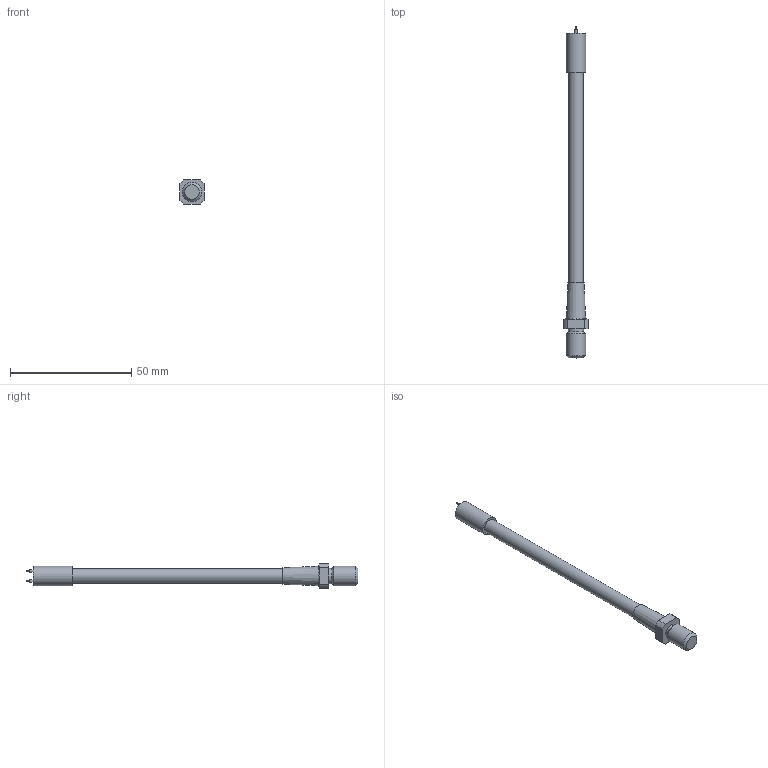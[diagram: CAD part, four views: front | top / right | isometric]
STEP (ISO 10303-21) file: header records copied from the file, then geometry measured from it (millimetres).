
FILE_DESCRIPTION(('STEP AP203'), '1');
FILE_NAME('ﾊﾌﾍﾒ.794191.002 ﾐﾐﾝﾑ-80-ﾐ4', '', ('UNSPECIFIED'), ('UNSPECIFIED'), 'C3D Converter', 'C3D Toolkit', '');
FILE_SCHEMA(('CONFIG_CONTROL_DESIGN'));
Length unit declared in the file: millimetre
Products named in the file (1): КМНТ.794191.002
Bounding box: 10 x 137 x 10 mm (x, y, z)
Volume: 4739.8 mm3; surface area: 3642.1 mm2
Topology: 447 solids, 447 shells, 3256 faces, 5266 edges, 2913 vertices
Faces by surface type: cylinder 1403, plane 953, torus 895, cone 5
Full cylindrical faces by diameter (mm): 0.02 x1335, 0.78 x3, 1 x3, 2 x1, 3 x1, 6 x2, 6.2 x1, 8 x2
Entity records: 90913 total; most frequent: DIRECTION 12343, CARTESIAN_POINT 9220, AXIS2_PLACEMENT_3D 6072, ORIENTED_EDGE 6036, EDGE_LOOP 5515, FACE_OUTER_BOUND 4491, COLOUR_RGB 3703, FILL_AREA_STYLE_COLOUR 3703
